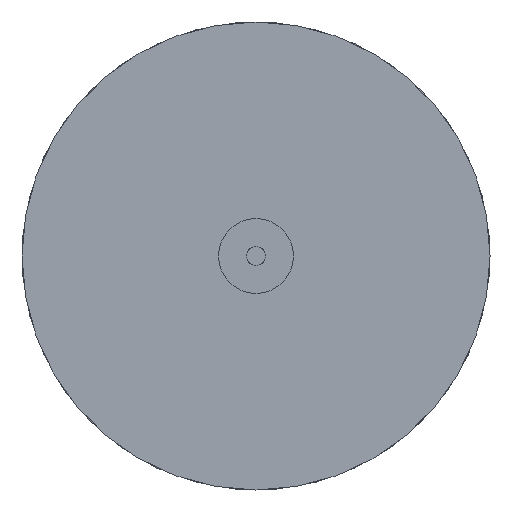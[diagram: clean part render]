
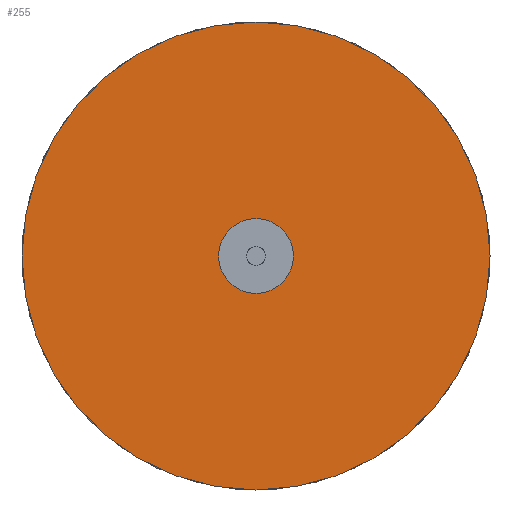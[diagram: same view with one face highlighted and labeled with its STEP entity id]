
A CAD part, front view. The second image highlights one B-rep face of the part: STEP entity #255.
In plain terms, the highlighted planar face has unit normal (0, -1, 0).
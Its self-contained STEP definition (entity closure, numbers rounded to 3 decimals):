
#20 = CIRCLE ( 'NONE', #127, 20. ) ;
#23 = CIRCLE ( 'NONE', #1599, 20. ) ;
#28 = AXIS2_PLACEMENT_3D ( 'NONE', #1221, #262, #508 ) ;
#70 = DIRECTION ( 'NONE',  ( 0., -1., 0. ) ) ;
#127 = AXIS2_PLACEMENT_3D ( 'NONE', #531, #1187, #636 ) ;
#171 = FACE_BOUND ( 'NONE', #1197, .T. ) ;
#228 = CARTESIAN_POINT ( 'NONE',  ( 0., 0., 125. ) ) ;
#244 = DIRECTION ( 'NONE',  ( 0., 1., 0. ) ) ;
#255 = ADVANCED_FACE ( 'NONE', ( #171, #1091 ), #767, .F. ) ;
#262 = DIRECTION ( 'NONE',  ( 0., 1., 0. ) ) ;
#265 = CARTESIAN_POINT ( 'NONE',  ( 0., 0., 20. ) ) ;
#419 = EDGE_CURVE ( 'NONE', #876, #860, #1018, .T. ) ;
#425 = ORIENTED_EDGE ( 'NONE', *, *, #1646, .F. ) ;
#508 = DIRECTION ( 'NONE',  ( 0., 0., 1. ) ) ;
#531 = CARTESIAN_POINT ( 'NONE',  ( 0., 0., 0. ) ) ;
#551 = DIRECTION ( 'NONE',  ( 0., 0., -1. ) ) ;
#561 = CARTESIAN_POINT ( 'NONE',  ( 0., 0., -125. ) ) ;
#586 = DIRECTION ( 'NONE',  ( 0., 1., 0. ) ) ;
#631 = CARTESIAN_POINT ( 'NONE',  ( 0., 0., 0. ) ) ;
#636 = DIRECTION ( 'NONE',  ( 0., 0., -1. ) ) ;
#767 = PLANE ( 'NONE',  #28 ) ;
#774 = EDGE_LOOP ( 'NONE', ( #991, #425 ) ) ;
#786 = CARTESIAN_POINT ( 'NONE',  ( 0., 0., -20. ) ) ;
#799 = VERTEX_POINT ( 'NONE', #265 ) ;
#814 = AXIS2_PLACEMENT_3D ( 'NONE', #631, #244, #1563 ) ;
#860 = VERTEX_POINT ( 'NONE', #228 ) ;
#876 = VERTEX_POINT ( 'NONE', #561 ) ;
#894 = CIRCLE ( 'NONE', #814, 125. ) ;
#937 = ORIENTED_EDGE ( 'NONE', *, *, #1670, .F. ) ;
#958 = VERTEX_POINT ( 'NONE', #786 ) ;
#991 = ORIENTED_EDGE ( 'NONE', *, *, #419, .F. ) ;
#1018 = CIRCLE ( 'NONE', #1532, 125. ) ;
#1084 = EDGE_CURVE ( 'NONE', #958, #799, #20, .T. ) ;
#1091 = FACE_OUTER_BOUND ( 'NONE', #774, .T. ) ;
#1108 = CARTESIAN_POINT ( 'NONE',  ( 0., 0., 0. ) ) ;
#1187 = DIRECTION ( 'NONE',  ( 0., -1., 0. ) ) ;
#1197 = EDGE_LOOP ( 'NONE', ( #1575, #937 ) ) ;
#1221 = CARTESIAN_POINT ( 'NONE',  ( 0., 0., 0. ) ) ;
#1328 = CARTESIAN_POINT ( 'NONE',  ( 0., 0., 0. ) ) ;
#1348 = DIRECTION ( 'NONE',  ( 0., 0., 1. ) ) ;
#1532 = AXIS2_PLACEMENT_3D ( 'NONE', #1328, #586, #1348 ) ;
#1563 = DIRECTION ( 'NONE',  ( 0., 0., 1. ) ) ;
#1575 = ORIENTED_EDGE ( 'NONE', *, *, #1084, .F. ) ;
#1599 = AXIS2_PLACEMENT_3D ( 'NONE', #1108, #70, #551 ) ;
#1646 = EDGE_CURVE ( 'NONE', #860, #876, #894, .T. ) ;
#1670 = EDGE_CURVE ( 'NONE', #799, #958, #23, .T. ) ;
